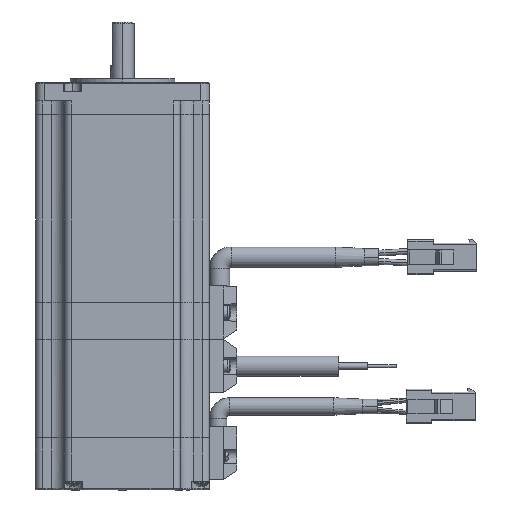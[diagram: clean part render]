
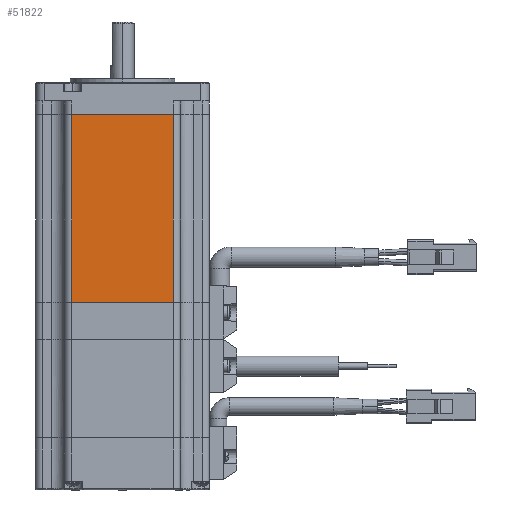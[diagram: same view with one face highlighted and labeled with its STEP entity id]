
A CAD part, left-side view. The second image highlights one B-rep face of the part: STEP entity #51822.
In plain terms, the highlighted planar face has unit normal (-1, 0, 0).
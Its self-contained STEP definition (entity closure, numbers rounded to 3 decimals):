
#16560 = CARTESIAN_POINT ( 'NONE',  ( -29.995, -17.495, 0. ) ) ;
#18957 = DIRECTION ( 'NONE',  ( 0., -1., 0. ) ) ;
#22877 = VERTEX_POINT ( 'NONE', #189974 ) ;
#39957 = VERTEX_POINT ( 'NONE', #171887 ) ;
#44225 = EDGE_CURVE ( 'NONE', #22877, #189497, #169368, .T. ) ;
#50703 = VERTEX_POINT ( 'NONE', #115424 ) ;
#51822 = ADVANCED_FACE ( 'NONE', ( #155756 ), #85890, .F. ) ;
#60741 = ORIENTED_EDGE ( 'NONE', *, *, #66757, .T. ) ;
#60994 = VECTOR ( 'NONE', #118187, 1000. ) ;
#62784 = CARTESIAN_POINT ( 'NONE',  ( -29.995, 17.495, 64.7 ) ) ;
#65383 = EDGE_LOOP ( 'NONE', ( #142046, #151141, #85726, #60741 ) ) ;
#66757 = EDGE_CURVE ( 'NONE', #50703, #39957, #91284, .T. ) ;
#74448 = EDGE_CURVE ( 'NONE', #39957, #189497, #80771, .T. ) ;
#80771 = LINE ( 'NONE', #152454, #115498 ) ;
#85726 = ORIENTED_EDGE ( 'NONE', *, *, #132820, .F. ) ;
#85890 = PLANE ( 'NONE',  #102878 ) ;
#86530 = DIRECTION ( 'NONE',  ( 0., 1., 0. ) ) ;
#90573 = VECTOR ( 'NONE', #138063, 1000. ) ;
#91284 = LINE ( 'NONE', #62784, #121394 ) ;
#102878 = AXIS2_PLACEMENT_3D ( 'NONE', #115684, #175267, #86530 ) ;
#103272 = CARTESIAN_POINT ( 'NONE',  ( -29.995, 17.495, 64.7 ) ) ;
#115424 = CARTESIAN_POINT ( 'NONE',  ( -29.995, 17.495, 64.7 ) ) ;
#115498 = VECTOR ( 'NONE', #18957, 1000. ) ;
#115684 = CARTESIAN_POINT ( 'NONE',  ( -29.995, 17.495, 64.7 ) ) ;
#118187 = DIRECTION ( 'NONE',  ( 0., -1., 0. ) ) ;
#121394 = VECTOR ( 'NONE', #121677, 1000. ) ;
#121677 = DIRECTION ( 'NONE',  ( 0., 0., -1. ) ) ;
#123128 = CARTESIAN_POINT ( 'NONE',  ( -29.995, -17.495, 64.7 ) ) ;
#132820 = EDGE_CURVE ( 'NONE', #50703, #22877, #139814, .T. ) ;
#138063 = DIRECTION ( 'NONE',  ( 0., 0., -1. ) ) ;
#139814 = LINE ( 'NONE', #103272, #60994 ) ;
#142046 = ORIENTED_EDGE ( 'NONE', *, *, #74448, .T. ) ;
#151141 = ORIENTED_EDGE ( 'NONE', *, *, #44225, .F. ) ;
#152454 = CARTESIAN_POINT ( 'NONE',  ( -29.995, 17.495, 0. ) ) ;
#155756 = FACE_OUTER_BOUND ( 'NONE', #65383, .T. ) ;
#169368 = LINE ( 'NONE', #123128, #90573 ) ;
#171887 = CARTESIAN_POINT ( 'NONE',  ( -29.995, 17.495, 0. ) ) ;
#175267 = DIRECTION ( 'NONE',  ( 1., 0., 0. ) ) ;
#189497 = VERTEX_POINT ( 'NONE', #16560 ) ;
#189974 = CARTESIAN_POINT ( 'NONE',  ( -29.995, -17.495, 64.7 ) ) ;
